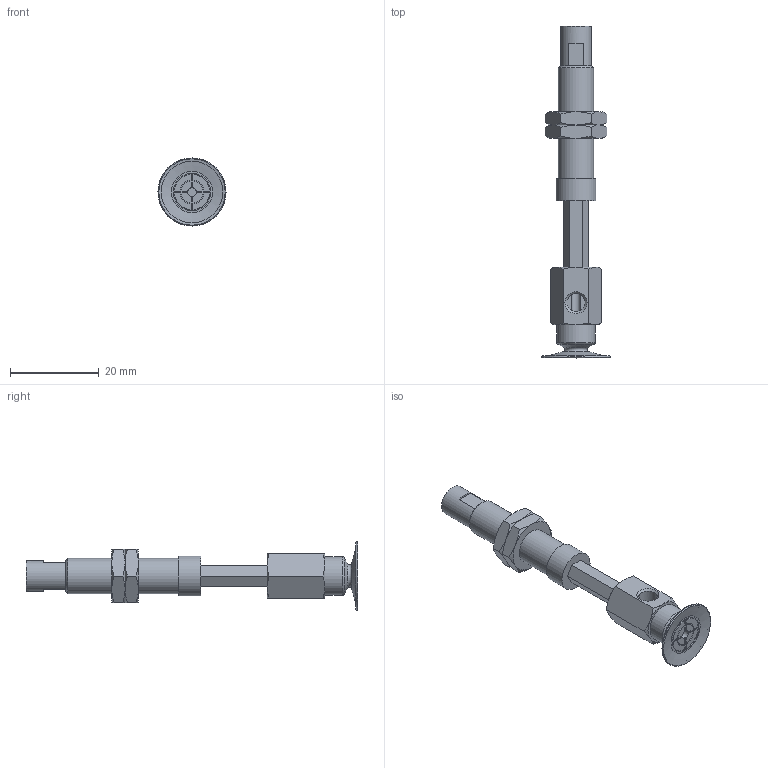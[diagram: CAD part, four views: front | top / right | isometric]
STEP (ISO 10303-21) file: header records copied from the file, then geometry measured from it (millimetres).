
FILE_DESCRIPTION(('STEP AP203'),'1');
FILE_NAME('.stp','2025-03-13T03:17:15',(' '),(' '),'Spatial InterOp 3D',' ',' ');
FILE_SCHEMA(('CONFIG_CONTROL_DESIGN'));
Length unit declared in the file: millimetre
Products named in the file (6): BNABPAYH-15B-15-※; NAPATH-10A-15--M; NAPATH-10A-15--F; Nut-10A-S; CONNECTOR-10A-15-PA; BPAG-15B-※
Assembly tree (6 placements, depth 2):
  BNABPAYH-15B-15-※
    NAPATH-10A-15--M
    NAPATH-10A-15--F
    Nut-10A-S  x2
    CONNECTOR-10A-15-PA
    BPAG-15B-※
Bounding box: 15.4 x 75 x 15.4 mm (x, y, z)
Volume: 3957.6 mm3; surface area: 5071.9 mm2
Topology: 6 solids, 6 shells, 181 faces, 411 edges, 251 vertices
Faces by surface type: plane 83, cone 60, cylinder 28, torus 10
Full cylindrical faces by diameter (mm): 2 x2, 4 x2, 4.134 x2, 5 x1, 6 x2, 7 x1, 7.188 x2, 8 x1, 8.5 x1, 8.7 x1, 9 x1
Entity records: 4728 total; most frequent: CARTESIAN_POINT 1118, DIRECTION 684, ORIENTED_EDGE 628, EDGE_CURVE 314, AXIS2_PLACEMENT_3D 274, EDGE_LOOP 214, VERTEX_POINT 212, FACE_OUTER_BOUND 183
